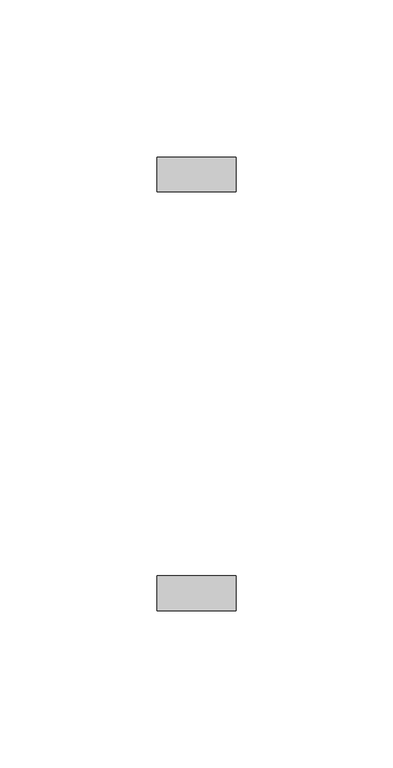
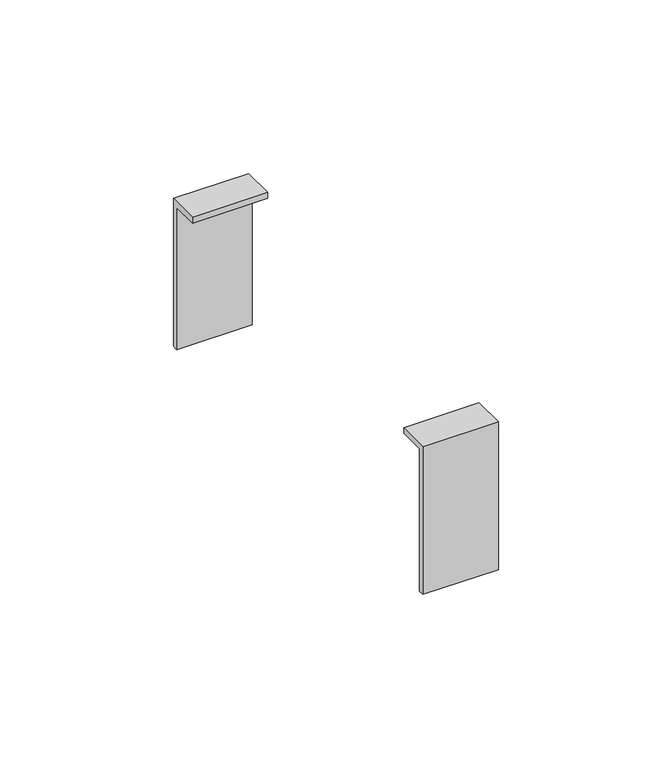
"""IFC4 building model written with IfcOpenShell, lengths in millimetres: cable carrier fitting geometry, КНС_НакладкаНаСтыкПрофилейКоробов_ILF_DKC : Белый."""

from ifc_helpers import new_model, si_unit, frame, origin, place, context, project, spatial, polyline, outline, extrude, source, transform, mapped, element, save


def cable_carrier_fitting_fb1314e3(model_context):
    return source(origin(), model_context, "Body", "SweptSolid", [
        extrude(outline(polyline([(72.0, -25.0), (70.0, -25.0), (70.0, 25.0), (61.0, 25.0), (61.0, 27.0), (72.0, 27.0), (72.0, -25.0)])), frame((-12.5, 0.0, 0.0), z_axis=(1.0, 0.0, 0.0), x_axis=(0.0, 1.0, 0.0)), (0.0, 0.0, 1.0), 25.0),
        extrude(outline(polyline([(-72.0, -25.0), (-72.0, 27.0), (-61.0, 27.0), (-61.0, 25.0), (-70.0, 25.0), (-70.0, -25.0), (-72.0, -25.0)])), frame((-12.5, 0.0, 0.0), z_axis=(1.0, 0.0, 0.0), x_axis=(0.0, 1.0, 0.0)), (0.0, 0.0, 1.0), 25.0),
    ])


if __name__ == "__main__":
    model = new_model("IFC4")
    model_context = context("Model", 3, world=origin())
    ifc_project = project(units=[si_unit("LENGTHUNIT", "METRE", prefix="MILLI")], contexts=[model_context])
    site = spatial("IfcSite", under=ifc_project)
    building = spatial("IfcBuilding", under=site)
    placement = place(None, origin())
    cable_carrier_fitting_shape = cable_carrier_fitting_fb1314e3(model_context)
    element("IfcCableCarrierFitting", 1, ObjectType="КНС_НакладкаНаСтыкПрофилейКоробов_ILF_DKC : Белый", at=placement, inside=building, context=model_context, shape_type="MappedRepresentation", body=[
        mapped(cable_carrier_fitting_shape, transform((0.0, 0.0, 0.0), x_axis=(1.0, 0.0, 0.0), y_axis=(0.0, 1.0, 0.0), z_axis=(0.0, 0.0, 1.0))),
    ])
    save(model, "model.ifc")
